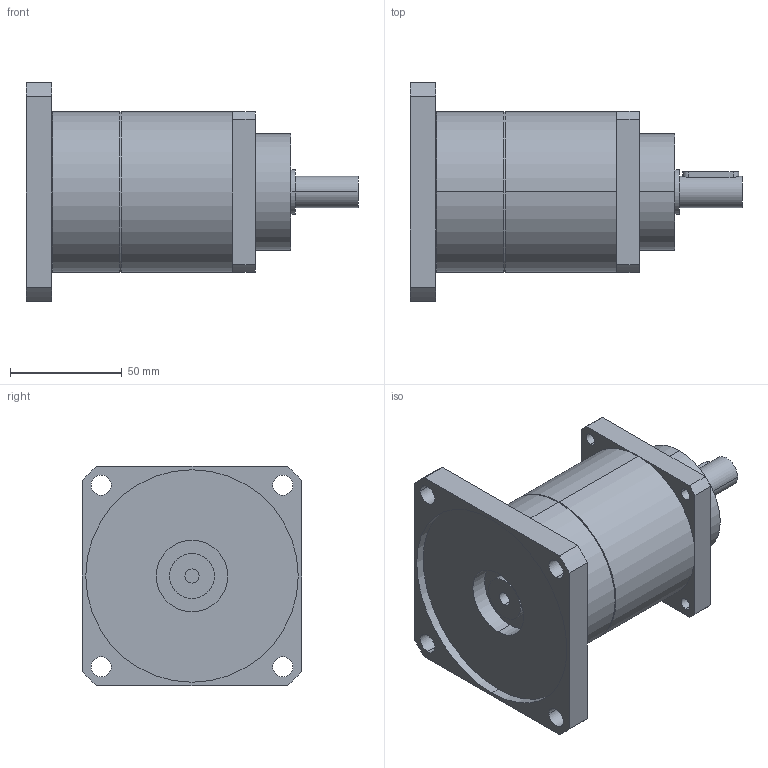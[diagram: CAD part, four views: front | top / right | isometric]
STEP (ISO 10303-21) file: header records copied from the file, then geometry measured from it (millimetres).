
FILE_DESCRIPTION(('CoCreate Modeling STEP Export'),'2;1');
FILE_NAME('GPT75_ig-9-12-16-20-25-28-35-40-50-70-100_14_B5T_6.35_P08.stp','2014-08-27T13:38:39',(''),(''),'CoCreate Modeling STEP processor for AP214 (Solid Model)','CoCreate Modeling 16.00C 25-Feb-2009 (C) Parametric Technology GmbH','');
FILE_SCHEMA(('AUTOMOTIVE_DESIGN { 1 0 10303 214 1 1 1 1 }'));
Length unit declared in the file: millimetre
Products named in the file (2): GPT75_ig-9-12-16-20-25-28-35-40-50-70-100_14_B5T_6.35_P08
Assembly tree (1 placements, depth 2):
  GPT75_ig-9-12-16-20-25-28-35-40-50-70-100_14_B5T_6.35_P08
    GPT75_ig-9-12-16-20-25-28-35-40-50-70-100_14_B5T_6.35_P08
Bounding box: 148.5 x 98 x 98 mm (x, y, z)
Volume: 491679.8 mm3; surface area: 55398.5 mm2
Topology: 1 solids, 1 shells, 77 faces, 189 edges, 124 vertices
Faces by surface type: cylinder 46, plane 27, cone 4
Entity records: 2459 total; most frequent: CARTESIAN_POINT 714, ORIENTED_EDGE 378, DIRECTION 320, EDGE_CURVE 189, VERTEX_POINT 124, AXIS2_PLACEMENT_3D 118, EDGE_LOOP 103, VECTOR 84
